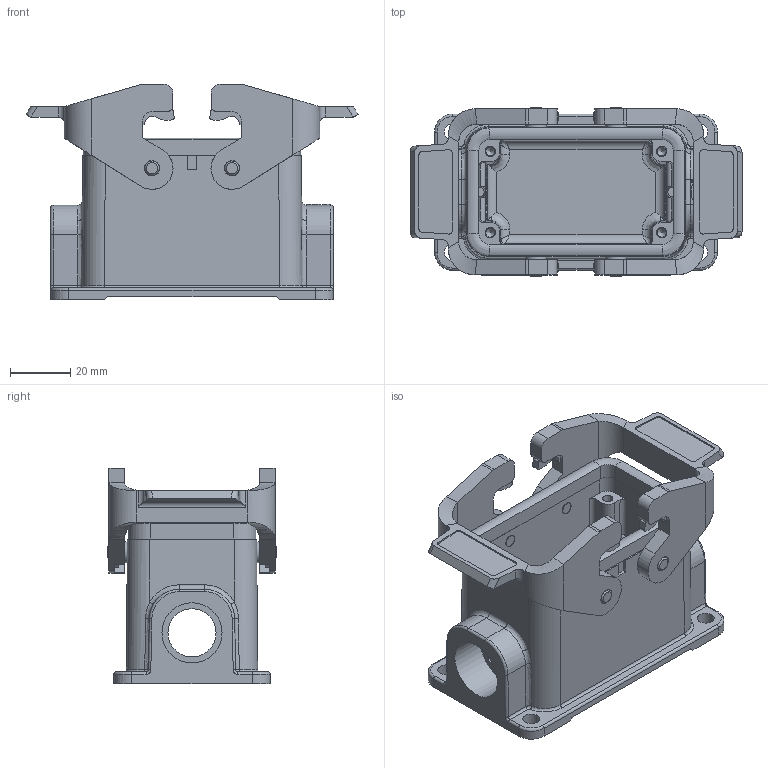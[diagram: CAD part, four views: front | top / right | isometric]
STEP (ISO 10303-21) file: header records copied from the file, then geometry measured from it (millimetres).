
FILE_DESCRIPTION(/* description */ (''),/* implementation_level */ '2;1');
FILE_NAME(/* name */ '100184936ugm000_e.stp',/* time_stamp */ '2024-02-23T12:54:11+01:00',/* author */ (''),/* organization */ (''),/* preprocessor_version */ 'ST-DEVELOPER v19.3',/* originating_system */ 'SIEMENS PLM Software NX2212.6000',/* authorisation */ '');
FILE_SCHEMA (('AUTOMOTIVE_DESIGN { 1 0 10303 214 3 1 1 1 }'));
Length unit declared in the file: millimetre
Products named in the file (1): 100184936ugm000_e
Bounding box: 110.38 x 56.06 x 71.8 mm (x, y, z)
Volume: 95947.3 mm3; surface area: 47705.8 mm2
Topology: 3 solids, 3 shells, 605 faces, 1598 edges, 1018 vertices
Faces by surface type: plane 311, cylinder 207, bspline 44, torus 20, cone 20, extrusion 3
Full cylindrical faces by diameter (mm): 0.56 x1, 0.8 x1, 3 x4, 4 x4, 4.8 x4, 5.1 x4, 5.13 x4, 5.6 x4, 7 x4, 16 x2, 20 x2
Entity records: 21767 total; most frequent: CARTESIAN_POINT 5474, DIRECTION 3045, ORIENTED_EDGE 3016, EDGE_CURVE 1508, AXIS2_PLACEMENT_3D 1053, VERTEX_POINT 996, VECTOR 939, LINE 936
